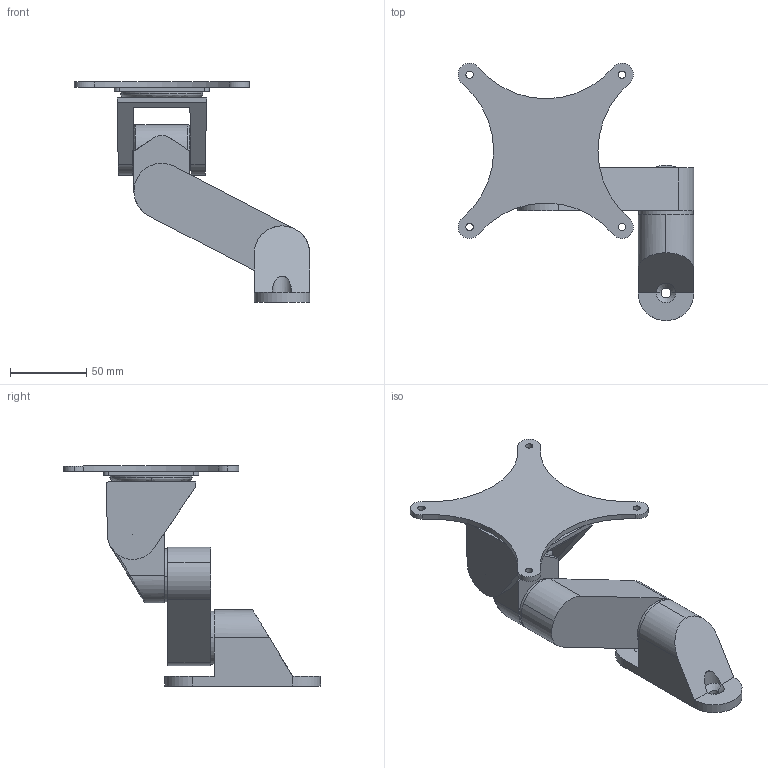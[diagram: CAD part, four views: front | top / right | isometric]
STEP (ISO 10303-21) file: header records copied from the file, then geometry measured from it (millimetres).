
FILE_DESCRIPTION (( 'STEP AP214' ), '1' );
FILE_NAME ('Wall Mount Arm, VESA-WALLMT3-BLK.STEP', '2017-08-14T18:46:48', ( '' ), ( '' ), 'SwSTEP 2.0', 'SolidWorks 2017', '' );
FILE_SCHEMA (( 'AUTOMOTIVE_DESIGN' ));
Length unit declared in the file: millimetre
Products named in the file (9): 703072 Gen Ref; 754440 Gen Ref; 704139 Gen Ref; 703128 Gen Ref; Wall Mount Arm, VESA-WALLMT3-BLK; 105587 Gen Ref; 701161 Gen Ref; 704133 Gen Ref; 704060 Gen Ref
Assembly tree (8 placements, depth 2):
  Wall Mount Arm, VESA-WALLMT3-BLK
    703128 Gen Ref
    704139 Gen Ref
    754440 Gen Ref
    703072 Gen Ref
    704060 Gen Ref
    704133 Gen Ref
    701161 Gen Ref
    105587 Gen Ref
Bounding box: 154.63 x 168.68 x 144.51 mm (x, y, z)
Volume: 364089.3 mm3; surface area: 85130 mm2
Topology: 8 solids, 8 shells, 114 faces, 279 edges, 181 vertices
Faces by surface type: cylinder 63, plane 39, cone 6, bspline 6
Entity records: 5351 total; most frequent: CARTESIAN_POINT 1407, DIRECTION 599, ORIENTED_EDGE 558, EDGE_CURVE 279, AXIS2_PLACEMENT_3D 234, VERTEX_POINT 181, EDGE_LOOP 140, VECTOR 131
